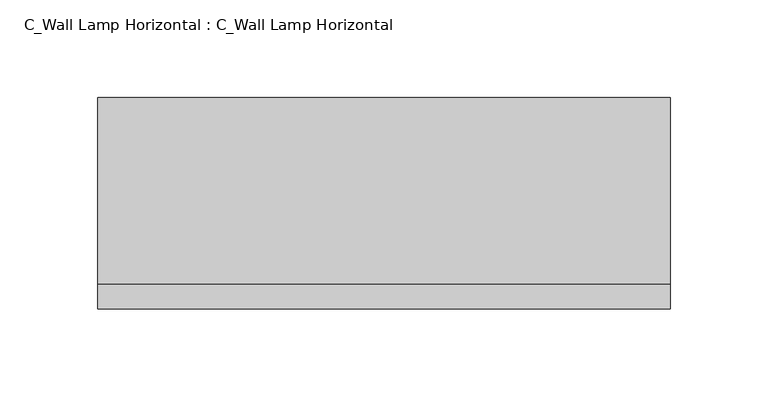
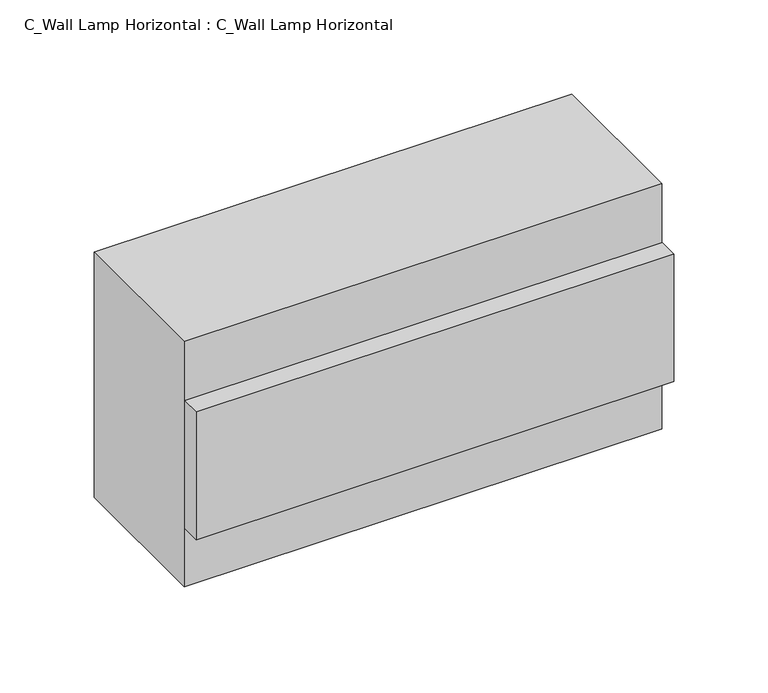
"""IFC4 building model written with IfcOpenShell, lengths in millimetres: light fixture geometry, C_Wall Lamp Horizontal : C_Wall Lamp Horizontal."""

from ifc_helpers import new_model, si_unit, frame, origin, place, context, project, spatial, polyline, outline, extrude, source, transform, mapped, element, save


def c_wall_lamp_horizontal_c_wall_lamp_horizontal_b369eba9(model_context):
    return source(origin(), model_context, "Body", "SweptSolid", [
        extrude(outline(polyline([(-182.4056627, 114.3), (-182.4056627, 209.55), (109.6943373, 209.55), (109.6943373, 114.3), (-182.4056627, 114.3)])), frame((0.0, 0.0, 1880.8737961), z_axis=(0.0, 0.0, 1.0), x_axis=(1.0, 0.0, 0.0)), (0.0, 0.0, 1.0), 158.75),
        extrude(outline(polyline([(-182.4056627, 101.6), (-182.4056627, 114.3), (109.6943373, 114.3), (109.6943373, 101.6), (-182.4056627, 101.6)])), frame((0.0, 0.0, 1919.0474582), z_axis=(0.0, 0.0, 1.0), x_axis=(1.0, 0.0, 0.0)), (0.0, 0.0, 1.0), 82.55),
    ])


if __name__ == "__main__":
    model = new_model("IFC4")
    model_context = context("Model", 3, world=origin())
    ifc_project = project(units=[si_unit("LENGTHUNIT", "METRE", prefix="MILLI")], contexts=[model_context])
    site = spatial("IfcSite", under=ifc_project)
    building = spatial("IfcBuilding", under=site)
    placement = place(None, origin())
    c_wall_lamp_horizontal_c_wall_lamp_horizontal_shape = c_wall_lamp_horizontal_c_wall_lamp_horizontal_b369eba9(model_context)
    element("IfcLightFixture", 1, ObjectType="C_Wall Lamp Horizontal : C_Wall Lamp Horizontal", at=placement, inside=building, context=model_context, shape_type="MappedRepresentation", body=[
        mapped(c_wall_lamp_horizontal_c_wall_lamp_horizontal_shape, transform((0.0, 0.0, 0.0), x_axis=(1.0, 0.0, 0.0), y_axis=(0.0, 1.0, 0.0), z_axis=(0.0, 0.0, 1.0))),
    ])
    save(model, "model.ifc")
